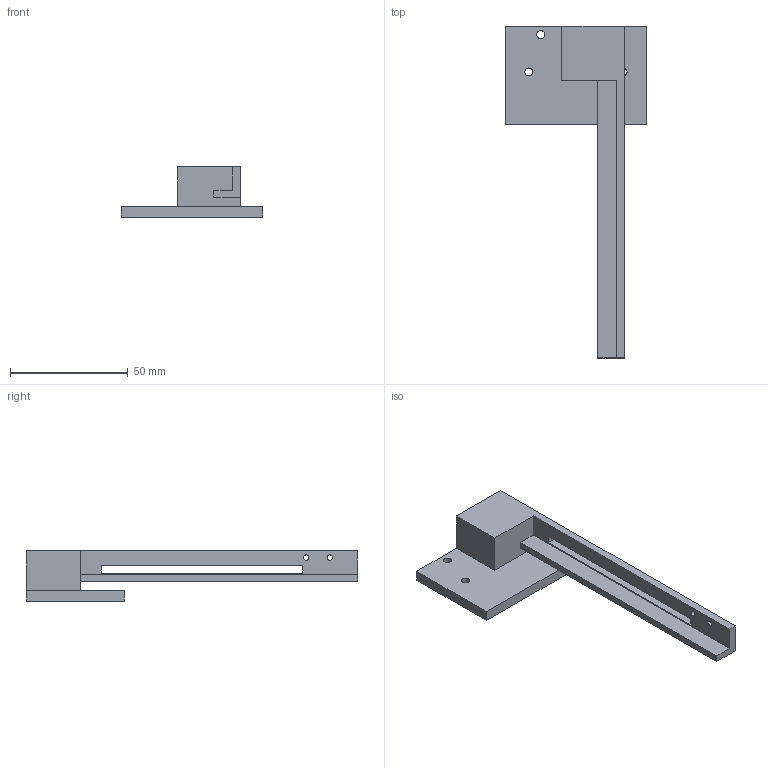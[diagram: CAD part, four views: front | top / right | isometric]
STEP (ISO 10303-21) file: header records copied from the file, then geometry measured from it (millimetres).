
FILE_DESCRIPTION(('Open CASCADE Model'),'2;1');
FILE_NAME('Open CASCADE Shape Model','2026-10-17T22:08:14',('Author'),( 'Open CASCADE'),'Open CASCADE STEP processor 7.9','Open CASCADE 7.9' ,'Unknown');
FILE_SCHEMA(('AUTOMOTIVE_DESIGN { 1 0 10303 214 1 1 1 1 }'));
Length unit declared in the file: millimetre
Products named in the file (1): Open CASCADE STEP translator 7.9 7
Bounding box: 60 x 141 x 21.4 mm (x, y, z)
Volume: 28463.3 mm3; surface area: 13649.8 mm2
Topology: 1 solids, 1 shells, 31 faces, 84 edges, 56 vertices
Faces by surface type: plane 22, cylinder 7, cone 2
Full cylindrical faces by diameter (mm): 2.3 x2, 3.4 x5
Entity records: 2134 total; most frequent: CARTESIAN_POINT 400, DIRECTION 326, LINE 216, VECTOR 216, ORIENTED_EDGE 168, PCURVE 168, DEFINITIONAL_REPRESENTATION 168, EDGE_CURVE 84
